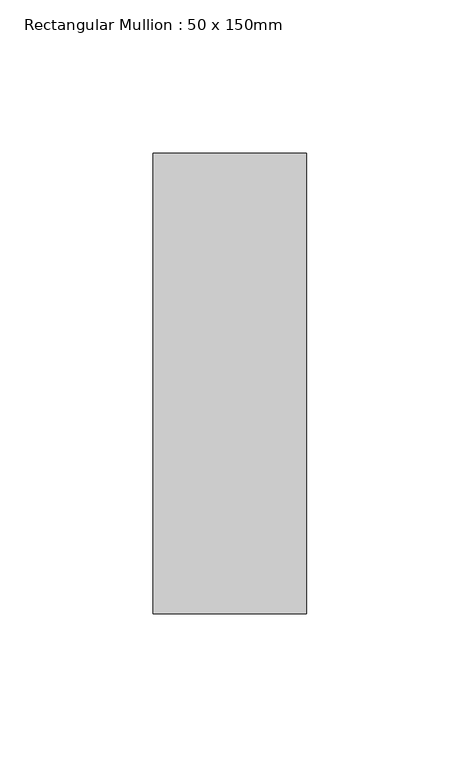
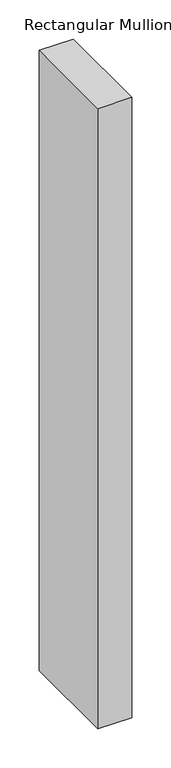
"""IFC4 building model written with IfcOpenShell, lengths in millimetres: member geometry, Rectangular Mullion : 50 x 150mm."""

import ifcopenshell
import ifcopenshell.guid

model = None  # the IFC model being written
_history = None  # IfcOwnerHistory: only IFC2X3 demands one
_inside = {}  # id of a spatial element -> (the spatial element, [elements in it])
_under = {}  # id of a project, library or spatial element -> (it, [spatial elements below it])
_declared = {}  # id of a project -> (the project, [libraries it declares])
_typed = {}  # id of a type object -> (the type object, [elements of that type])
_made_of = {}  # id of a material, layer set ... -> (it, [elements and type objects made of it])


def new_model(schema):
    """Start an empty IFC model of exactly this schema.

    Asked for "IFC4X3", IfcOpenShell would pick the latest addendum, in which some entities
    have other attributes; the version numbers below select the first issue.
    IFC2X3 requires an IfcOwnerHistory on every rooted entity: one is made here for all.
    """
    global model, _history
    if schema == "IFC4X3":
        model = ifcopenshell.file(schema_version=(4, 3, 0, 0))
    else:
        model = ifcopenshell.file(schema=schema)
    _inside.clear()
    _under.clear()
    _declared.clear()
    _typed.clear()
    _made_of.clear()
    _history = None
    if model.schema == "IFC2X3":
        org = make("IfcOrganization", Name="unknown")
        user = make(
            "IfcPersonAndOrganization",
            ThePerson=make("IfcPerson", FamilyName="unknown"),
            TheOrganization=org,
        )
        app = make(
            "IfcApplication",
            ApplicationDeveloper=org,
            Version="unknown",
            ApplicationFullName="unknown",
            ApplicationIdentifier="unknown",
        )
        _history = make(
            "IfcOwnerHistory",
            OwningUser=user,
            OwningApplication=app,
            ChangeAction="ADDED",
            CreationDate=0,
        )
    return model


def make(cls, **values):
    """One entity of the class cls with the attributes given. An attribute that is None is left unset."""
    return model.create_entity(
        cls, **{name: value for name, value in values.items() if value is not None}
    )


def rooted(cls, **values):
    """An entity with a GlobalId (a new one), such as an element, a storey or a relation."""
    return make(cls, GlobalId=ifcopenshell.guid.new(), OwnerHistory=_history, **values)


def si_unit(unit_type, name, prefix=None):
    """IfcSIUnit, for example si_unit("LENGTHUNIT", "METRE", prefix="MILLI")."""
    return make("IfcSIUnit", UnitType=unit_type, Prefix=prefix, Name=name)


def assignment(units):
    """IfcUnitAssignment: the units of a project."""
    return None if units is None else make("IfcUnitAssignment", Units=units)


def point(xyz):
    """IfcCartesianPoint."""
    return None if xyz is None else make("IfcCartesianPoint", Coordinates=xyz)


def direction(xyz):
    """IfcDirection."""
    return None if xyz is None else make("IfcDirection", DirectionRatios=xyz)


def frame(location, z_axis=None, x_axis=None):
    """IfcAxis2Placement3D, a coordinate frame: its origin and axes. An axis left out is left unset."""
    return make(
        "IfcAxis2Placement3D",
        Location=point(location),
        Axis=direction(z_axis),
        RefDirection=direction(x_axis),
    )


def origin():
    """The frame at (0, 0, 0) with its axes left unset."""
    return frame((0.0, 0.0, 0.0))


def place(relative_to, where):
    """IfcLocalPlacement: puts the frame where relative to a parent placement (None: the world)."""
    return make(
        "IfcLocalPlacement", PlacementRelTo=relative_to, RelativePlacement=where
    )


def context(
    kind, dimensions, precision=None, world=None, true_north=None, identifier=None
):
    """IfcGeometricRepresentationContext, for example the 3D "Model" context."""
    return make(
        "IfcGeometricRepresentationContext",
        ContextIdentifier=identifier,
        ContextType=kind,
        CoordinateSpaceDimension=dimensions,
        Precision=precision,
        WorldCoordinateSystem=world,
        TrueNorth=true_north,
    )


def project(units=None, contexts=None):
    """IfcProject with its units and contexts."""
    return rooted(
        "IfcProject",
        Name="project",
        RepresentationContexts=contexts,
        UnitsInContext=assignment(units),
    )


def spatial(cls, under=None, at=None, **own):
    """A site, building, storey or space (cls), placed at a placement, below another one or the project."""
    s = rooted(cls, ObjectPlacement=at, **own)
    if under is not None:
        _under.setdefault(under.id(), (under, []))[1].append(s)
    return s


def polyline(points):
    """IfcPolyline through the points."""
    return make("IfcPolyline", Points=[point(p) for p in points])


def outline(outer, holes=None, kind="AREA"):
    """IfcArbitraryClosedProfileDef: a profile drawn as a closed curve; with holes, ...WithVoids."""
    if holes is None:
        return make("IfcArbitraryClosedProfileDef", ProfileType=kind, OuterCurve=outer)
    return make(
        "IfcArbitraryProfileDefWithVoids",
        ProfileType=kind,
        OuterCurve=outer,
        InnerCurves=holes,
    )


def extrude(swept, where, along, depth):
    """IfcExtrudedAreaSolid: the profile swept, set in the frame where, extruded along a direction by depth."""
    return make(
        "IfcExtrudedAreaSolid",
        SweptArea=swept,
        Position=where,
        ExtrudedDirection=direction(along),
        Depth=depth,
    )


def shape(context_of_items, identifier, shape_type, items):
    """IfcShapeRepresentation: the items that make up one representation, for example the "Body"."""
    return make(
        "IfcShapeRepresentation",
        ContextOfItems=context_of_items,
        RepresentationIdentifier=identifier,
        RepresentationType=shape_type,
        Items=items,
    )


def source(mapping_origin, context_of_items, identifier, shape_type, items):
    """IfcRepresentationMap: a shape defined once, which mapped items show again and again."""
    return make(
        "IfcRepresentationMap",
        MappingOrigin=mapping_origin,
        MappedRepresentation=shape(context_of_items, identifier, shape_type, items),
    )


def transform(
    local_origin,
    x_axis=None,
    y_axis=None,
    z_axis=None,
    scale=None,
    scale2=None,
    scale3=None,
    uniform=True,
):
    """IfcCartesianTransformationOperator3D, or its non-uniform kind. x_axis, y_axis, z_axis: its Axis1, 2, 3."""
    if uniform:
        return make(
            "IfcCartesianTransformationOperator3D",
            Axis1=direction(x_axis),
            Axis2=direction(y_axis),
            LocalOrigin=point(local_origin),
            Scale=scale,
            Axis3=direction(z_axis),
        )
    return make(
        "IfcCartesianTransformationOperator3DnonUniform",
        Axis1=direction(x_axis),
        Axis2=direction(y_axis),
        LocalOrigin=point(local_origin),
        Scale=scale,
        Axis3=direction(z_axis),
        Scale2=scale2,
        Scale3=scale3,
    )


def mapped(mapping_source, mapping_target):
    """IfcMappedItem: shows the shape of a source again, moved by a transform."""
    return make(
        "IfcMappedItem", MappingSource=mapping_source, MappingTarget=mapping_target
    )


def made_of(thing, what):
    """Note that an element or type object is made of a material, layer set ...; save() writes the relation."""
    if what is not None:
        _made_of.setdefault(what.id(), (what, []))[1].append(thing)
    return thing


def element(
    cls,
    number,
    at=None,
    inside=None,
    cuts=None,
    type_object=None,
    material=None,
    context=None,
    identifier="Body",
    shape_type=None,
    held_by="IfcProductDefinitionShape",
    body=None,
    shapes=None,
    **own,
):
    """One element of the class cls, such as IfcWall. Its Tag is "e" and its number.

    at: its placement. inside: the storey or other place that contains it. cuts: it is an
    opening in that element (IfcRelVoidsElement). A single representation is given by context,
    identifier, shape_type and body (its items); several are given by shapes. held_by: the class
    of the entity that holds the representations. save() writes the other relations.
    """
    e = rooted(cls, Tag="e%d" % number, ObjectPlacement=at, **own)
    if body is not None:
        shapes = [shape(context, identifier, shape_type, body)]
    if shapes is not None:
        e.Representation = make(held_by, Representations=shapes)
    if inside is not None:
        _inside.setdefault(inside.id(), (inside, []))[1].append(e)
    if cuts is not None:
        rooted(
            "IfcRelVoidsElement", RelatingBuildingElement=cuts, RelatedOpeningElement=e
        )
    if type_object is not None:
        _typed.setdefault(type_object.id(), (type_object, []))[1].append(e)
    return made_of(e, material)


def aggregate(whole, parts):
    """IfcRelAggregates: a whole, such as a stair, and the parts it consists of."""
    return rooted("IfcRelAggregates", RelatingObject=whole, RelatedObjects=parts)


def save(model, path):
    """Write the relations noted so far, then the file.

    IfcRelAggregates (storeys below a building ...), IfcRelContainedInSpatialStructure (elements
    in a storey), IfcRelDefinesByType, IfcRelAssociatesMaterial and IfcRelDeclares: one each for
    every whole, place, type object, material and project.
    """
    for whole, parts in _under.values():
        aggregate(whole, parts)
    for where, things in _inside.values():
        rooted(
            "IfcRelContainedInSpatialStructure",
            RelatedElements=things,
            RelatingStructure=where,
        )
    for kind, things in _typed.values():
        rooted("IfcRelDefinesByType", RelatedObjects=things, RelatingType=kind)
    for what, things in _made_of.values():
        rooted("IfcRelAssociatesMaterial", RelatedObjects=things, RelatingMaterial=what)
    for by, libraries in _declared.values():
        rooted("IfcRelDeclares", RelatingContext=by, RelatedDefinitions=libraries)
    model.write(path)


def rectangular_mullion_50_x_150mm_6053375a(model_context):
    return source(origin(), model_context, "Body", "SweptSolid", [
        extrude(outline(polyline([(25.0, 75.0), (25.0, -75.0), (-25.0, -75.0), (-25.0, 75.0), (25.0, 75.0)])), frame((0.0, 0.0, -966.8785033), z_axis=(0.0, 0.0, 1.0), x_axis=(1.0, 0.0, 0.0)), (0.0, 0.0, 1.0), 966.8785033),
    ])


if __name__ == "__main__":
    model = new_model("IFC4")
    model_context = context("Model", 3, world=origin())
    ifc_project = project(units=[si_unit("LENGTHUNIT", "METRE", prefix="MILLI")], contexts=[model_context])
    site = spatial("IfcSite", under=ifc_project)
    building = spatial("IfcBuilding", under=site)
    placement = place(None, origin())
    rectangular_mullion_50_x_150mm_shape = rectangular_mullion_50_x_150mm_6053375a(model_context)
    element("IfcMember", 1, ObjectType="Rectangular Mullion : 50 x 150mm", at=placement, inside=building, context=model_context, shape_type="MappedRepresentation", body=[
        mapped(rectangular_mullion_50_x_150mm_shape, transform((0.0, 0.0, 0.0), x_axis=(1.0, 0.0, 0.0), y_axis=(0.0, 1.0, 0.0), z_axis=(0.0, 0.0, 1.0))),
    ])
    save(model, "model.ifc")
